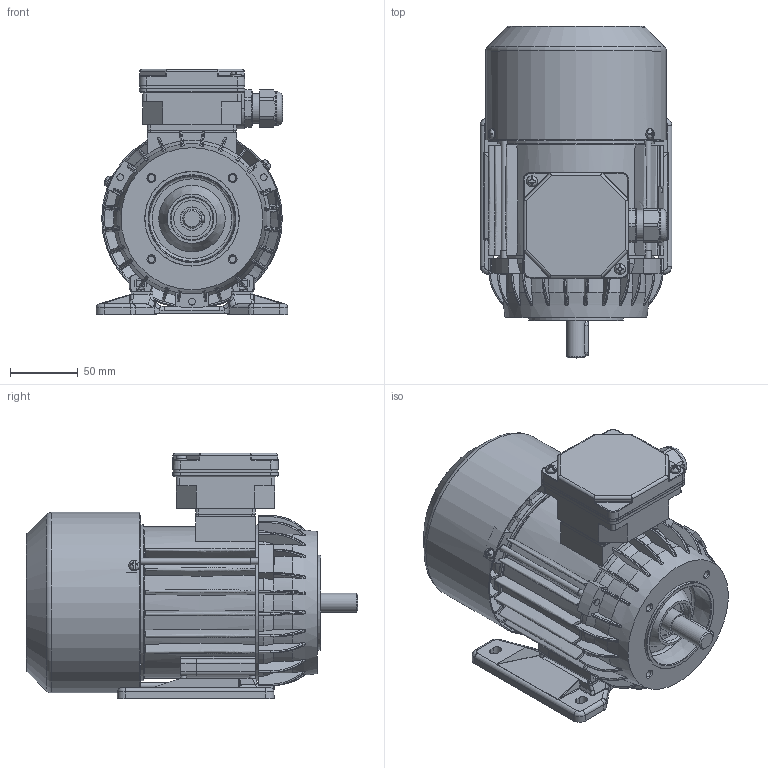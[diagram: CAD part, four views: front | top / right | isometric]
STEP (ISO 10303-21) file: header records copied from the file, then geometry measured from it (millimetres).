
FILE_DESCRIPTION( ( 'Unknown' ), '1' );
FILE_NAME( 'G:/Poczta Tk-1/STP/w.m.71/Sh71/SLh71-.B2.stp', 'Unknown', ( 'K. Szlosek' ), ( 'BESEL S.A.' ), 'PSStep 17.0.49', 'Unknown', ' ' );
FILE_SCHEMA( ( 'AUTOMOTIVE_DESIGN { 1 0 10303 214 1 1 1 1 }' ) );
Length unit declared in the file: millimetre
Products named in the file (29): Assem1; K4-2820 Uszczelka nr 2 Sh71,80; Wkręt samogwintujący M4x16; K3-6469 Tarcza łożyskowa P S(E,M)h71-B,C; Wpust A5x5x25; Wkręt samogwintujący M4x8; K1-1194 Kadłub z zamkami Sh71-.B; K3-3984 Przewietrznik Sh71; K4-2320 Uszczelka nr 1 Sh71,80; K3-2975 Osłona przewietrznika Sh71-.B,C; K2-0860 Pokrywka skrzynki zaciskowej; K3-4502 wał standard Sh71-B; Nitokołek A 2x6; Łożysko 6203; Śruba ściągająca E_M5x110; Tabliczka znamionowa 32x44; Dławnica M20x1,5; K1-1245 Tarcza kołnierzowa B14_2 w.m. 71; K2-0859 Podstawa skrzynki 6-cio zaciskowej; K1-0448 Łapa Sh71-.. 
Assembly tree (44 placements, depth 2):
  Assem1
    K4-2820 Uszczelka nr 2 Sh71,80
    Wkręt samogwintujący M4x16  x2
    K3-6469 Tarcza łożyskowa P S(E,M)h71-B,C
    Wpust A5x5x25
    Wkręt samogwintujący M4x8  x3
    K1-1194 Kadłub z zamkami Sh71-.B
    K3-3984 Przewietrznik Sh71
    K4-2320 Uszczelka nr 1 Sh71,80
    K3-2975 Osłona przewietrznika Sh71-.B,C
    K2-0860 Pokrywka skrzynki zaciskowej
    K3-4502 wał standard Sh71-B
    Nitokołek A 2x6  x2
    Łożysko 6203  x2
    Łożysko 6203  x2
    Łożysko 6203  x2
    Łożysko 6203  x2
    Łożysko 6203  x2
    Łożysko 6203  x2
    Łożysko 6203  x2
    Łożysko 6203  x2
    Łożysko 6203  x2
    Łożysko 6203  x2
    Śruba ściągająca E_M5x110  x3
    Tabliczka znamionowa 32x44
    Dławnica M20x1,5
    K1-1245 Tarcza kołnierzowa B14_2 w.m. 71
    K2-0859 Podstawa skrzynki 6-cio zaciskowej
    K1-0448 Łapa Sh71-.. 
Bounding box: 141.93 x 245.5 x 181.5 mm (x, y, z)
Volume: 686049.1 mm3; surface area: 459608 mm2
Topology: 44 solids, 60 shells, 2756 faces, 7528 edges, 4828 vertices
Faces by surface type: plane 1084, cylinder 790, bspline 447, torus 198, cone 195, sphere 42
Full cylindrical faces by diameter (mm): 2 x2, 2.4 x2, 3.7 x7, 3.8 x4, 4 x5, 4.5 x1, 4.6 x3, 4.8 x4, 4.917 x4, 5 x10, 5.5 x3, 5.8 x4, 7 x1, 8 x9, 14 x1, 15.9 x1, 16.1 x1, 16.5 x1, 17 x4, 17.4 x2, 18.376 x1, 18.38 x1, 20 x1, 22 x2, 22.3 x1, 22.5 x1, 23 x1, 23.1 x1, 24.498 x4, 25 x1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
Entity records: 169311 total; most frequent: CARTESIAN_POINT 86419, ORIENTED_EDGE 13564, DIRECTION 11813, EDGE_CURVE 6782, AXIS2_PLACEMENT_3D 4501, VERTEX_POINT 4497, EDGE_LOOP 3004, LINE 2811
